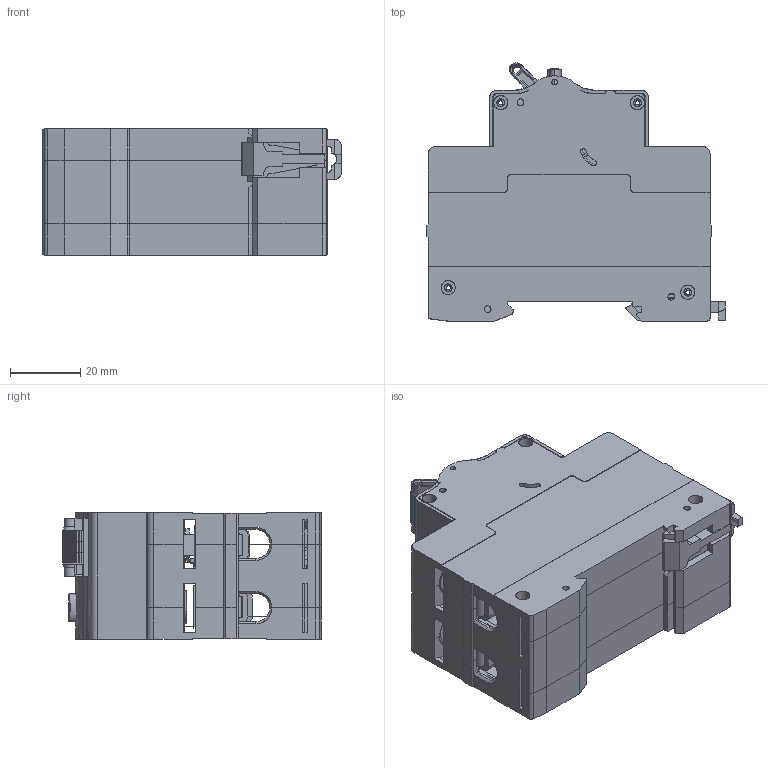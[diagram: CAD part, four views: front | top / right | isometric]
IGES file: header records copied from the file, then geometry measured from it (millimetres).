
Start section: SolidWorks IGES file using analytic representation for surfaces
Bounding box: 84.73 x 73.32 x 36 mm (x, y, z)
Surface area: 33406.4 mm2 (no closed solid volume)
Topology: 0 solids, 0 shells, 883 faces, 10131 edges, 10130 vertices
Faces by surface type: bspline 566, revolution 317
